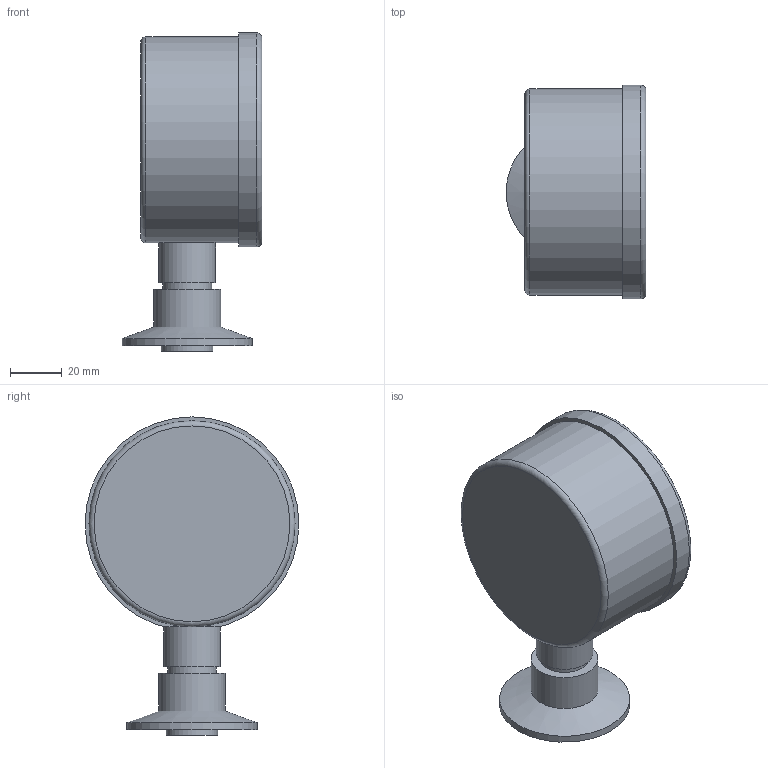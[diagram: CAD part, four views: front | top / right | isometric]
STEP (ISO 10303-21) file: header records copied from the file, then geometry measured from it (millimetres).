
FILE_DESCRIPTION(/* description */ ('西野製作所'),/* implementation_level */ '2;1');
FILE_NAME(/* name */ 'C:\Users\Fujimoto-s\OneDrive\Inventor\WorkSpace\\X2\305D306E4ED6\X0\\ホームページ用\\X2\30C030A630F330ED30FC30C97D206750\X0\\サニタリー継手\NG-A3K2U×1MPa\NG-A3K2U×1MPa.stp',/* time_stamp */ '2024-08-09T10:39:05+09:00',/* author */ ('Fujimoto-s'),/* organization */ (''),/* preprocessor_version */ 'ST-DEVELOPER v15.2',/* originating_system */ 'Autodesk Inventor 2014',/* authorisation */ '');
FILE_SCHEMA (('AUTOMOTIVE_DESIGN { 1 0 10303 214 3 1 1 }'));
Length unit declared in the file: millimetre
Products named in the file (1): NG-A3K2U×1MPa
Bounding box: 54.25 x 83 x 123.5 mm (x, y, z)
Volume: 255646.8 mm3; surface area: 30159.9 mm2
Topology: 2 solids, 2 shells, 29 faces, 55 edges, 35 vertices
Faces by surface type: plane 16, cylinder 10, torus 2, cone 1
Full cylindrical faces by diameter (mm): 19 x1, 20 x1, 22 x1, 26 x1, 50.5 x1, 79 x1, 80 x1, 83 x1
Entity records: 708 total; most frequent: DIRECTION 125, CARTESIAN_POINT 107, ORIENTED_EDGE 88, AXIS2_PLACEMENT_3D 52, EDGE_LOOP 46, EDGE_CURVE 43, VERTEX_POINT 34, ADVANCED_FACE 29
